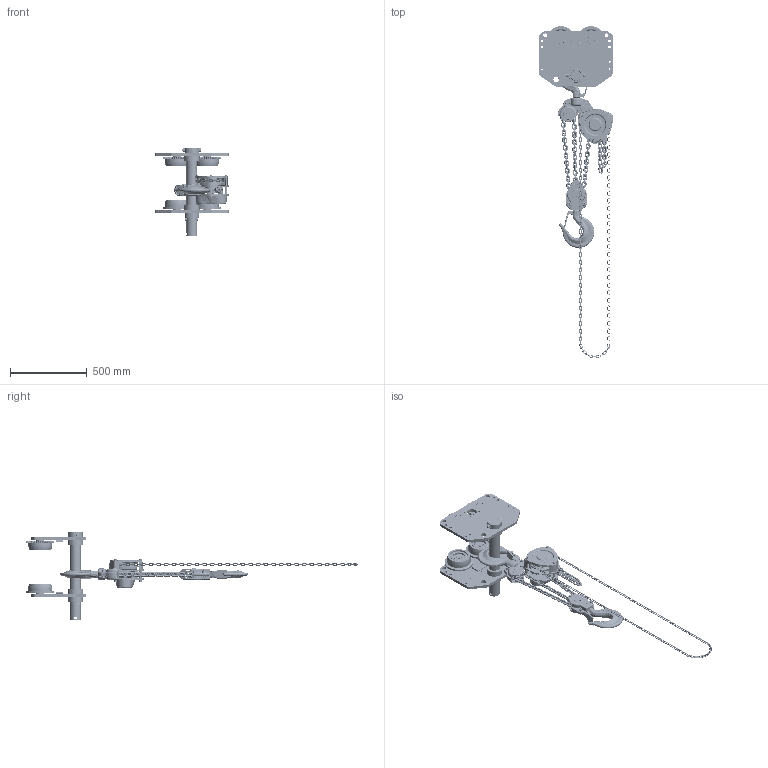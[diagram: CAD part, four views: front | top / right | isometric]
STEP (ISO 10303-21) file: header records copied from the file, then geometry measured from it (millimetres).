
FILE_DESCRIPTION (( 'STEP AP214' ), '1' );
FILE_NAME ('CB080 with PTF080.STEP', '2026-08-18T15:03:29', ( '' ), ( '' ), 'SwSTEP 2.0', 'SolidWorks 2026', '' );
FILE_SCHEMA (( 'AUTOMOTIVE_DESIGN' ));
Length unit declared in the file: millimetre
Products named in the file (79): T3GB1005112; C3BA075-10012; M6SE100S9181; MirrorCBA075-90111; MS104075; L4082090-TEMP_Prev Tor Nut Flange - DIN EN 1664 - M14 - N; 9093433_9093433; C3BA025-91022; M8 Latch Nut_B18.2.4.1M - Hex nut, Style 1,  M8 x 1.25 --D-N; L41071090; MS164075; CF053050; T3G1101075; C3BA025-91042; T3GA1009101; T3GA1009118; C3BA025-91031; M3700025; M3041075; M3161025; C3BA005-91731; T3GA1009102; M3116025; CBA075-90111; C3BA050-90512; T3GA1009111; PTF080_7" FLANGE; J1SR000-00090_J1SR000-00090; T3GA1009112; 9009412_9009412; M3B101025; C3BA025-91012; CB025_CB080; 9047140_9047140; C3BA025-91201; 9012713_9012713; T3G154075_T3G154075; L42001090; MS161100; CB080 LOAD CHAIN DEAD END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
Assembly tree (162 placements, depth 6):
  CB080 with PTF080
    CB080
      C3BA075-10012
        CBA075-90111
        L42001090
          C3BA100-90012
          L41071090
            L41071090
            8m X 40 SHCS_9091271
            M8 Latch Nut_B18.2.4.1M - Hex nut, Style 1,  M8 x 1.25 --D-N
        MirrorCBA075-90111
        M3051050
          C3BA050-90512
          C3BA050-90611  x2
        CF053050
        90912116_90912116  x3
        L4082090_L4082090  x3
      CB025_CB080
        M3171025
          C3BA025-91711
          C3BA005-91731  x2
        M3103025
          C3BA025-91031
          C3BA025-91201  x2
        M3B102025
          C3BA025-91022
          C3BA025-91201  x2
        9012713_9012713  x3
        9093433_9093433  x3
        9012711_9012711  x3
        9093424_9093424  x3
        M3B101025
          C3BA025-61012
            C3BA025-91012
            C3BA025-91722
          C3BA025-91042  x3
          C3BA025-91561
        M3B115025
        M3116025
        M316025
        M3161025  x2
        M3162025
        M3176025
        80550
        Rivet Label_PEM TFH-632-4 ZI--N  x4
        M3177025
        LCC3020
        M3700025
      C3BA075-10213
        C3BA075-90312  x2
        M3051050
          C3BA050-90512
          C3BA050-90611  x2
        CF053050
        L42001090
          C3BA100-90012
          L41071090
            L41071090
            8m X 40 SHCS_9091271
            M8 Latch Nut_B18.2.4.1M - Hex nut, Style 1,  M8 x 1.25 --D-N
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Bounding box: 482.17 x 2166.42 x 580 mm (x, y, z)
Volume: 16895868 mm3; surface area: 3422401.4 mm2
Topology: 112 solids, 344 shells, 12072 faces, 29940 edges, 18556 vertices
Faces by surface type: cylinder 3783, plane 3305, bspline 2051, torus 2043, cone 846, sphere 44
Entity records: 306805 total; most frequent: CARTESIAN_POINT 130275, ORIENTED_EDGE 34284, DIRECTION 31802, EDGE_CURVE 17144, AXIS2_PLACEMENT_3D 13179, VERTEX_POINT 10472, EDGE_LOOP 7432, CIRCLE 7230
